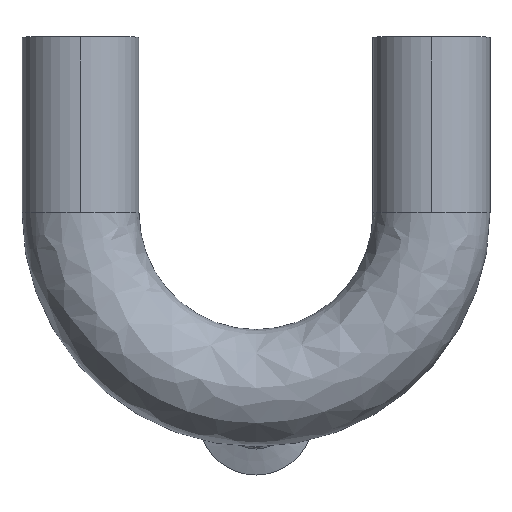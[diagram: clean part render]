
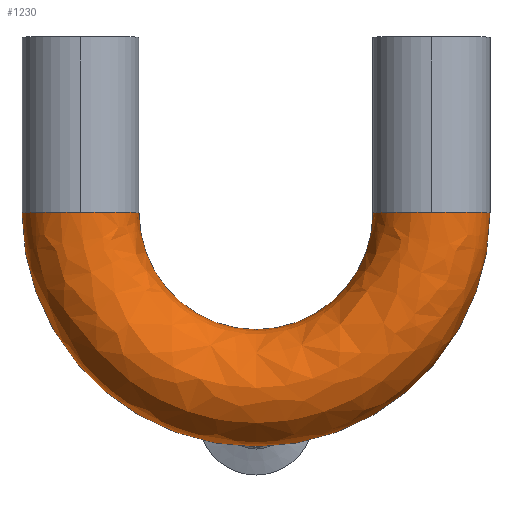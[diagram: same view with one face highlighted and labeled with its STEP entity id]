
A CAD part, top view. The second image highlights one B-rep face of the part: STEP entity #1230.
In plain terms, the highlighted free-form (B-spline) face has degree [3, 3] with [4, 4] control points.
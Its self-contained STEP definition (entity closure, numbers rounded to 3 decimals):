
#11 = DIRECTION ( 'NONE',  ( 0., -1., 0. ) ) ;
#13 = CARTESIAN_POINT ( 'NONE',  ( -50.8, 38.1, 0. ) ) ;
#25 = AXIS2_PLACEMENT_3D ( 'NONE', #526, #1474, #668 ) ;
#56 = ORIENTED_EDGE ( 'NONE', *, *, #1014, .F. ) ;
#61 = CARTESIAN_POINT ( 'NONE',  ( 25.4, 38.1, 0. ) ) ;
#83 = EDGE_LOOP ( 'NONE', ( #1262, #252, #672, #525, #56, #607, #1412 ) ) ;
#131 = CIRCLE ( 'NONE', #861, 50.8 ) ;
#176 = CIRCLE ( 'NONE', #1593, 12.7 ) ;
#213 = AXIS2_PLACEMENT_3D ( 'NONE', #1237, #1245, #1258 ) ;
#232 = EDGE_CURVE ( 'NONE', #1088, #1689, #1434, .T. ) ;
#252 = ORIENTED_EDGE ( 'NONE', *, *, #1513, .T. ) ;
#282 = CARTESIAN_POINT ( 'NONE',  ( -50.8, 38.1, 0. ) ) ;
#378 = CARTESIAN_POINT ( 'NONE',  ( 25.4, -12.7, 25.4 ) ) ;
#391 = VERTEX_POINT ( 'NONE', #1736 ) ;
#405 = CARTESIAN_POINT ( 'NONE',  ( -25.4, -12.7, 25.4 ) ) ;
#412 = CARTESIAN_POINT ( 'NONE',  ( -25.4, 38.1, 25.4 ) ) ;
#423 = CARTESIAN_POINT ( 'NONE',  ( 25.4, 38.1, 0. ) ) ;
#433 = CARTESIAN_POINT ( 'NONE',  ( 25.4, -12.7, 0. ) ) ;
#437 = CARTESIAN_POINT ( 'NONE',  ( -25.4, -12.7, 0. ) ) ;
#476 = DIRECTION ( 'NONE',  ( 1., 0., 0. ) ) ;
#498 = CARTESIAN_POINT ( 'NONE',  ( -25.4, 38.1, 0. ) ) ;
#517 = CARTESIAN_POINT ( 'NONE',  ( -38.1, 38.1, 0. ) ) ;
#525 = ORIENTED_EDGE ( 'NONE', *, *, #702, .T. ) ;
#526 = CARTESIAN_POINT ( 'NONE',  ( 0., 38.1, 0. ) ) ;
#558 = AXIS2_PLACEMENT_3D ( 'NONE', #812, #11, #940 ) ;
#607 = ORIENTED_EDGE ( 'NONE', *, *, #796, .F. ) ;
#631 = AXIS2_PLACEMENT_3D ( 'NONE', #690, #698, #714 ) ;
#653 = DIRECTION ( 'NONE',  ( -1., 0., 0. ) ) ;
#668 = DIRECTION ( 'NONE',  ( -1., 0., 0. ) ) ;
#672 = ORIENTED_EDGE ( 'NONE', *, *, #1486, .T. ) ;
#690 = CARTESIAN_POINT ( 'NONE',  ( 0., 38.1, 0. ) ) ;
#698 = DIRECTION ( 'NONE',  ( 0., 0., -1. ) ) ;
#702 = EDGE_CURVE ( 'NONE', #857, #1025, #1578, .T. ) ;
#714 = DIRECTION ( 'NONE',  ( -1., 0., 0. ) ) ;
#723 = VERTEX_POINT ( 'NONE', #1158 ) ;
#763 = AXIS2_PLACEMENT_3D ( 'NONE', #1110, #1096, #476 ) ;
#777 = VERTEX_POINT ( 'NONE', #61 ) ;
#796 = EDGE_CURVE ( 'NONE', #1088, #391, #131, .T. ) ;
#812 = CARTESIAN_POINT ( 'NONE',  ( 38.1, 38.1, 0. ) ) ;
#857 = VERTEX_POINT ( 'NONE', #1002 ) ;
#861 = AXIS2_PLACEMENT_3D ( 'NONE', #1196, #1148, #914 ) ;
#867 = CIRCLE ( 'NONE', #25, 25.4 ) ;
#914 = DIRECTION ( 'NONE',  ( -1., 0., 0. ) ) ;
#940 = DIRECTION ( 'NONE',  ( 1., 0., 0. ) ) ;
#952 = CARTESIAN_POINT ( 'NONE',  ( 38.1, 38.1, 12.7 ) ) ;
#1002 = CARTESIAN_POINT ( 'NONE',  ( -38.1, 38.1, 12.7 ) ) ;
#1014 = EDGE_CURVE ( 'NONE', #391, #1025, #1224, .T. ) ;
#1025 = VERTEX_POINT ( 'NONE', #282 ) ;
#1088 = VERTEX_POINT ( 'NONE', #1095 ) ;
#1092 = CARTESIAN_POINT ( 'NONE',  ( 50.8, -63.5, 0. ) ) ;
#1095 = CARTESIAN_POINT ( 'NONE',  ( 50.8, 38.1, 0. ) ) ;
#1096 = DIRECTION ( 'NONE',  ( 0., -1., 0. ) ) ;
#1110 = CARTESIAN_POINT ( 'NONE',  ( 38.1, 38.1, 0. ) ) ;
#1148 = DIRECTION ( 'NONE',  ( 0., 0., -1. ) ) ;
#1158 = CARTESIAN_POINT ( 'NONE',  ( -25.4, 38.1, 0. ) ) ;
#1196 = CARTESIAN_POINT ( 'NONE',  ( 0., 38.1, 0. ) ) ;
#1213 = FACE_OUTER_BOUND ( 'NONE', #83, .T. ) ;
#1224 = CIRCLE ( 'NONE', #631, 50.8 ) ;
#1230 = ADVANCED_FACE ( 'NONE', ( #1213 ), #1298, .T. ) ;
#1231 = CIRCLE ( 'NONE', #558, 12.7 ) ;
#1237 = CARTESIAN_POINT ( 'NONE',  ( -38.1, 38.1, 0. ) ) ;
#1245 = DIRECTION ( 'NONE',  ( 0., -1., 0. ) ) ;
#1253 = CARTESIAN_POINT ( 'NONE',  ( 50.8, -63.5, 25.4 ) ) ;
#1258 = DIRECTION ( 'NONE',  ( -1., 0., 0. ) ) ;
#1261 = CARTESIAN_POINT ( 'NONE',  ( 50.8, 38.1, 25.4 ) ) ;
#1262 = ORIENTED_EDGE ( 'NONE', *, *, #1546, .T. ) ;
#1298 =( BOUNDED_SURFACE ( )  B_SPLINE_SURFACE ( 3, 3, ( 
 ( #1616, #1092, #1633, #13 ),
 ( #1261, #1253, #1623, #1381 ),
 ( #1489, #378, #405, #412 ),
 ( #423, #433, #437, #498 ) ),
 .UNSPECIFIED., .F., .F., .T. ) 
 B_SPLINE_SURFACE_WITH_KNOTS ( ( 4, 4 ),
 ( 4, 4 ),
 ( 0., 1. ),
 ( 0., 1. ),
 .UNSPECIFIED. ) 
 GEOMETRIC_REPRESENTATION_ITEM ( )  RATIONAL_B_SPLINE_SURFACE ( (
 ( 1., 0.333, 0.333, 1.),
 ( 0.333, 0.111, 0.111, 0.333),
 ( 0.333, 0.111, 0.111, 0.333),
 ( 1., 0.333, 0.333, 1.) ) ) 
 REPRESENTATION_ITEM ( '' )  SURFACE ( )  );
#1381 = CARTESIAN_POINT ( 'NONE',  ( -50.8, 38.1, 25.4 ) ) ;
#1412 = ORIENTED_EDGE ( 'NONE', *, *, #232, .T. ) ;
#1434 = CIRCLE ( 'NONE', #763, 12.7 ) ;
#1463 = DIRECTION ( 'NONE',  ( 0., -1., 0. ) ) ;
#1474 = DIRECTION ( 'NONE',  ( 0., 0., -1. ) ) ;
#1486 = EDGE_CURVE ( 'NONE', #723, #857, #176, .T. ) ;
#1489 = CARTESIAN_POINT ( 'NONE',  ( 25.4, 38.1, 25.4 ) ) ;
#1513 = EDGE_CURVE ( 'NONE', #777, #723, #867, .T. ) ;
#1546 = EDGE_CURVE ( 'NONE', #1689, #777, #1231, .T. ) ;
#1578 = CIRCLE ( 'NONE', #213, 12.7 ) ;
#1593 = AXIS2_PLACEMENT_3D ( 'NONE', #517, #1463, #653 ) ;
#1616 = CARTESIAN_POINT ( 'NONE',  ( 50.8, 38.1, 0. ) ) ;
#1623 = CARTESIAN_POINT ( 'NONE',  ( -50.8, -63.5, 25.4 ) ) ;
#1633 = CARTESIAN_POINT ( 'NONE',  ( -50.8, -63.5, 0. ) ) ;
#1689 = VERTEX_POINT ( 'NONE', #952 ) ;
#1736 = CARTESIAN_POINT ( 'NONE',  ( 0., -12.7, 0. ) ) ;
